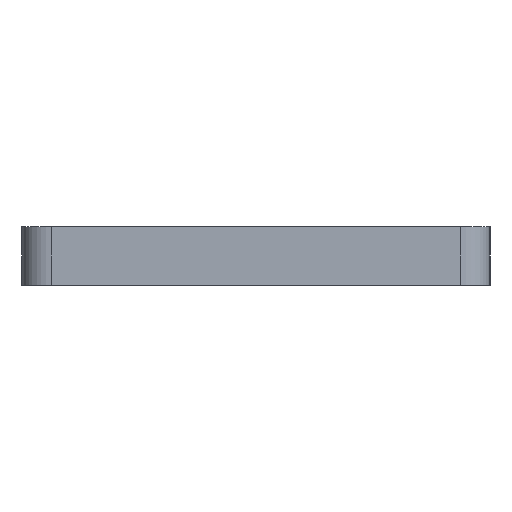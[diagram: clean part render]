
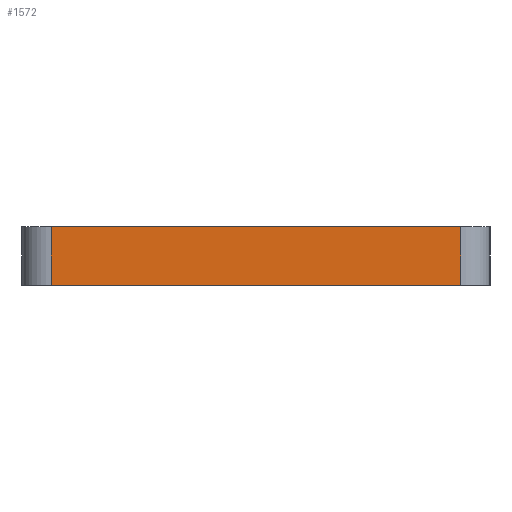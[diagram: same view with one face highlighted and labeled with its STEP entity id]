
A CAD part, left-side view. The second image highlights one B-rep face of the part: STEP entity #1572.
In plain terms, the highlighted planar face has unit normal (-1, 0, 0).
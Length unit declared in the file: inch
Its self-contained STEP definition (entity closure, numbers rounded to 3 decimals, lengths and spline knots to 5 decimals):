
#35 = VERTEX_POINT ( 'NONE', #196 ) ;
#196 = CARTESIAN_POINT ( 'NONE',  ( 0., -0.125, -0.125 ) ) ;
#347 = CARTESIAN_POINT ( 'NONE',  ( 0., -0.125, 0.125 ) ) ;
#436 = PLANE ( 'NONE',  #1061 ) ;
#596 = DIRECTION ( 'NONE',  ( 0., 1., 0. ) ) ;
#620 = VECTOR ( 'NONE', #1001, 39.37008 ) ;
#826 = LINE ( 'NONE', #828, #1100 ) ;
#828 = CARTESIAN_POINT ( 'NONE',  ( 0., 0., -0.125 ) ) ;
#861 = EDGE_CURVE ( 'NONE', #1945, #35, #1832, .T. ) ;
#886 = EDGE_CURVE ( 'NONE', #1945, #1288, #1932, .T. ) ;
#944 = ORIENTED_EDGE ( 'NONE', *, *, #886, .F. ) ;
#976 = VECTOR ( 'NONE', #1595, 39.37008 ) ;
#1001 = DIRECTION ( 'NONE',  ( 0., 0., -1. ) ) ;
#1012 = VECTOR ( 'NONE', #1508, 39.37008 ) ;
#1061 = AXIS2_PLACEMENT_3D ( 'NONE', #1238, #1719, #596 ) ;
#1100 = VECTOR ( 'NONE', #1472, 39.37008 ) ;
#1104 = CARTESIAN_POINT ( 'NONE',  ( 0., -1.875, 0.125 ) ) ;
#1209 = ORIENTED_EDGE ( 'NONE', *, *, #861, .T. ) ;
#1236 = VERTEX_POINT ( 'NONE', #1586 ) ;
#1238 = CARTESIAN_POINT ( 'NONE',  ( 0., 0., 0.125 ) ) ;
#1288 = VERTEX_POINT ( 'NONE', #1104 ) ;
#1300 = EDGE_CURVE ( 'NONE', #1236, #1288, #2004, .T. ) ;
#1472 = DIRECTION ( 'NONE',  ( 0., -1., 0. ) ) ;
#1480 = EDGE_LOOP ( 'NONE', ( #944, #1209, #1680, #1774 ) ) ;
#1489 = CARTESIAN_POINT ( 'NONE',  ( 0., -0.125, 0.125 ) ) ;
#1508 = DIRECTION ( 'NONE',  ( 0., -1., 0. ) ) ;
#1572 = ADVANCED_FACE ( 'NONE', ( #1770 ), #436, .F. ) ;
#1577 = CARTESIAN_POINT ( 'NONE',  ( 0., -1.875, 0.125 ) ) ;
#1586 = CARTESIAN_POINT ( 'NONE',  ( 0., -1.875, -0.125 ) ) ;
#1595 = DIRECTION ( 'NONE',  ( 0., 0., 1. ) ) ;
#1649 = CARTESIAN_POINT ( 'NONE',  ( 0., 0., 0.125 ) ) ;
#1680 = ORIENTED_EDGE ( 'NONE', *, *, #1861, .T. ) ;
#1719 = DIRECTION ( 'NONE',  ( 1., 0., 0. ) ) ;
#1770 = FACE_OUTER_BOUND ( 'NONE', #1480, .T. ) ;
#1774 = ORIENTED_EDGE ( 'NONE', *, *, #1300, .T. ) ;
#1832 = LINE ( 'NONE', #1489, #620 ) ;
#1861 = EDGE_CURVE ( 'NONE', #35, #1236, #826, .T. ) ;
#1932 = LINE ( 'NONE', #1649, #1012 ) ;
#1945 = VERTEX_POINT ( 'NONE', #347 ) ;
#2004 = LINE ( 'NONE', #1577, #976 ) ;
